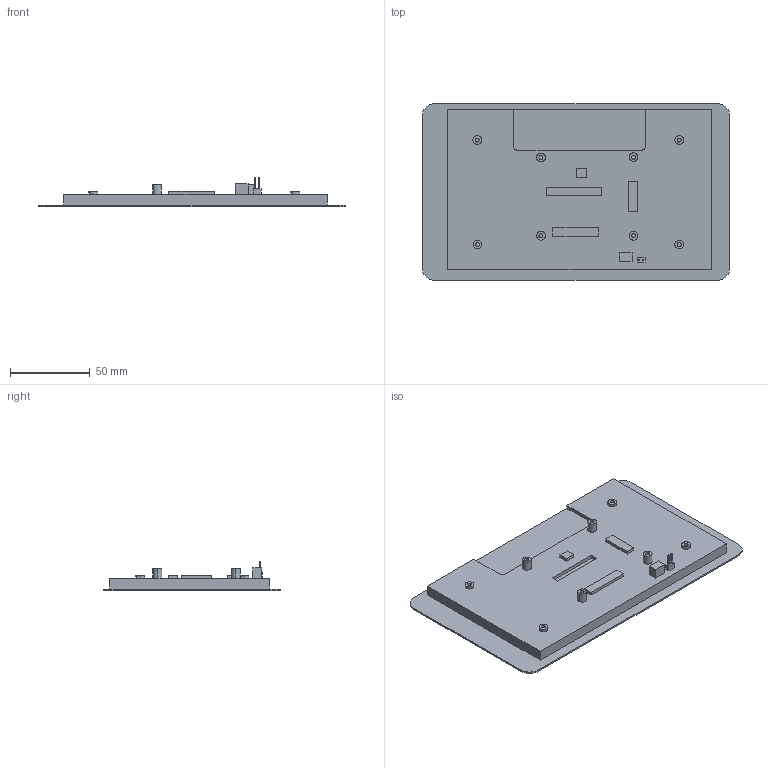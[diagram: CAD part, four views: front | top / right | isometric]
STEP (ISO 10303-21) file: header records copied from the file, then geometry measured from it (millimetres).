
FILE_DESCRIPTION((''),'2;1');
FILE_NAME('13','2022-08-17T',('Administrator'),(''),'PRO/ENGINEER BY PARAMETRIC TECHNOLOGY CORPORATION, 2002350','PRO/ENGINEER BY PARAMETRIC TECHNOLOGY CORPORATION, 2002350','');
FILE_SCHEMA(('CONFIG_CONTROL_DESIGN'));
Length unit declared in the file: millimetre
Products named in the file (1): 13
Bounding box: 192.9 x 110.8 x 18.5 mm (x, y, z)
Volume: 129205.6 mm3; surface area: 48500.5 mm2
Topology: 1 solids, 1 shells, 114 faces, 258 edges, 172 vertices
Faces by surface type: plane 76, cylinder 38
Entity records: 3236 total; most frequent: DIRECTION 562, CARTESIAN_POINT 544, ORIENTED_EDGE 516, EDGE_CURVE 258, AXIS2_PLACEMENT_3D 190, VECTOR 182, LINE 182, VERTEX_POINT 172
